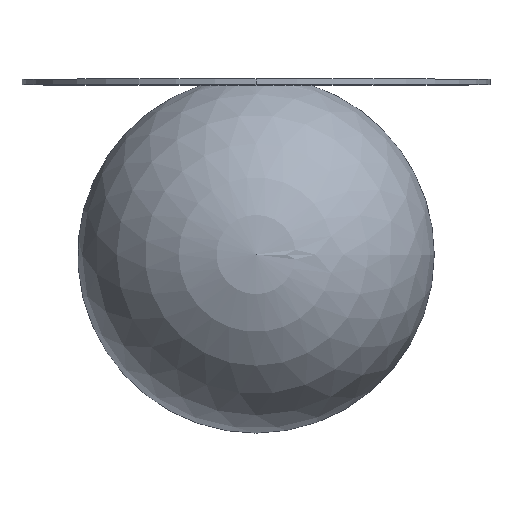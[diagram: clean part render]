
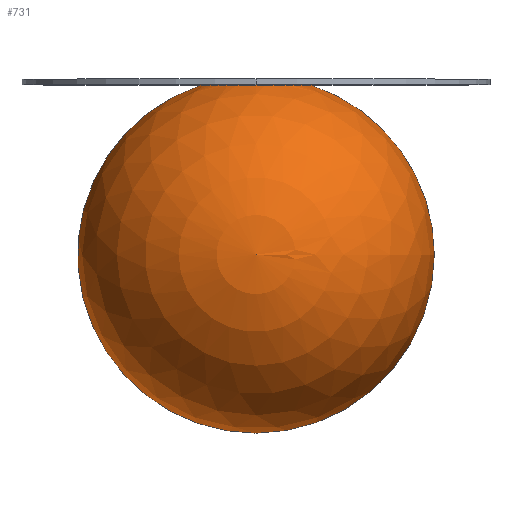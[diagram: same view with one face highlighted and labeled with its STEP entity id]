
A CAD part, top view. The second image highlights one B-rep face of the part: STEP entity #731.
In plain terms, the highlighted spherical face has radius 80 mm.
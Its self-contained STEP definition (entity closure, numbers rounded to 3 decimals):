
#12 = EDGE_CURVE ( 'NONE', #1330, #1263, #209, .T. ) ;
#35 = DIRECTION ( 'NONE',  ( 0., 0., -1. ) ) ;
#120 = FACE_OUTER_BOUND ( 'NONE', #1026, .T. ) ;
#126 = AXIS2_PLACEMENT_3D ( 'NONE', #353, #1307, #777 ) ;
#138 = EDGE_CURVE ( 'NONE', #584, #1263, #937, .T. ) ;
#203 = ORIENTED_EDGE ( 'NONE', *, *, #12, .F. ) ;
#209 = CIRCLE ( 'NONE', #1245, 25. ) ;
#305 = ORIENTED_EDGE ( 'NONE', *, *, #1222, .F. ) ;
#327 = AXIS2_PLACEMENT_3D ( 'NONE', #751, #1174, #1075 ) ;
#353 = CARTESIAN_POINT ( 'NONE',  ( 0., 0., 0. ) ) ;
#395 = CARTESIAN_POINT ( 'NONE',  ( -25., 75.993, 0. ) ) ;
#584 = VERTEX_POINT ( 'NONE', #660 ) ;
#597 = CARTESIAN_POINT ( 'NONE',  ( 25., 75.993, 0. ) ) ;
#622 = DIRECTION ( 'NONE',  ( -1., 0., 0. ) ) ;
#652 = AXIS2_PLACEMENT_3D ( 'NONE', #816, #35, #1343 ) ;
#660 = CARTESIAN_POINT ( 'NONE',  ( 0., -80., 0. ) ) ;
#731 = ADVANCED_FACE ( 'NONE', ( #120 ), #1317, .T. ) ;
#751 = CARTESIAN_POINT ( 'NONE',  ( 0., 0., 0. ) ) ;
#777 = DIRECTION ( 'NONE',  ( -1., 0., 0. ) ) ;
#816 = CARTESIAN_POINT ( 'NONE',  ( 0., 0., 0. ) ) ;
#913 = ORIENTED_EDGE ( 'NONE', *, *, #138, .T. ) ;
#937 = CIRCLE ( 'NONE', #327, 80. ) ;
#1026 = EDGE_LOOP ( 'NONE', ( #305, #913, #203 ) ) ;
#1050 = CARTESIAN_POINT ( 'NONE',  ( 0., 75.993, 0. ) ) ;
#1075 = DIRECTION ( 'NONE',  ( 1., 0., 0. ) ) ;
#1165 = CIRCLE ( 'NONE', #126, 80. ) ;
#1174 = DIRECTION ( 'NONE',  ( 0., 0., 1. ) ) ;
#1222 = EDGE_CURVE ( 'NONE', #584, #1330, #1165, .T. ) ;
#1245 = AXIS2_PLACEMENT_3D ( 'NONE', #1050, #1392, #622 ) ;
#1263 = VERTEX_POINT ( 'NONE', #597 ) ;
#1307 = DIRECTION ( 'NONE',  ( 0., 0., -1. ) ) ;
#1317 = SPHERICAL_SURFACE ( 'NONE', #652, 80. ) ;
#1330 = VERTEX_POINT ( 'NONE', #395 ) ;
#1343 = DIRECTION ( 'NONE',  ( 1., 0., 0. ) ) ;
#1392 = DIRECTION ( 'NONE',  ( 0., 1., 0. ) ) ;
